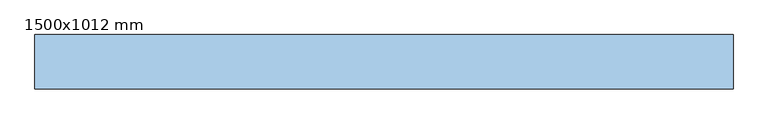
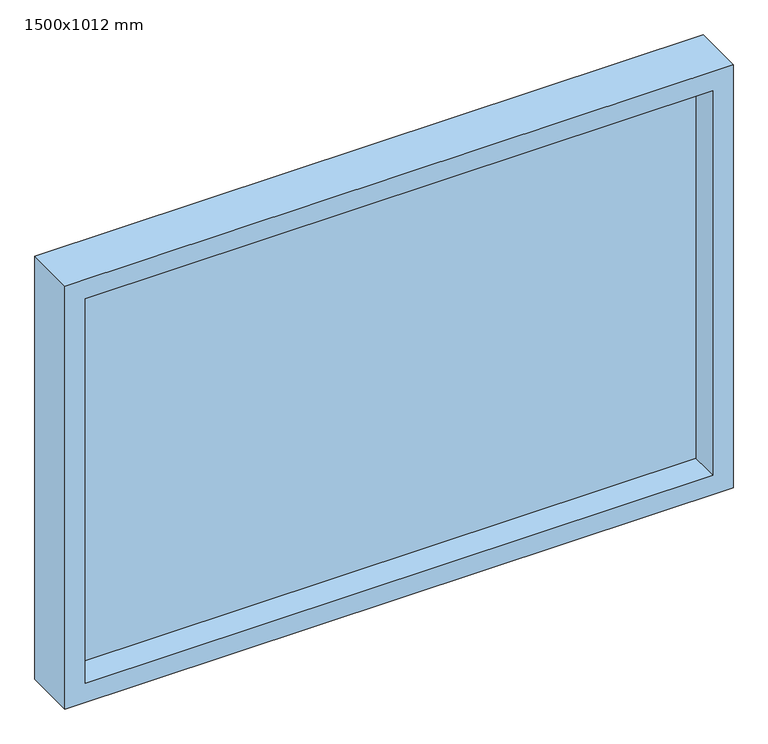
"""IFC4 building model written with IfcOpenShell, lengths in millimetres: window geometry, V_BS-Fals_Beton-Let_420mm : 1500x1012 mm."""

from ifc_helpers import new_model, si_unit, frame, origin, place, context, project, spatial, polyline, outline, extrude, source, transform, mapped, element, save


def window_1500x1012_mm_c2383a84(model_context):
    return source(origin(), model_context, "Body", "SweptSolid", [
        extrude(outline(polyline([(681.0, 93.0), (681.0, 71.0), (-705.0, 71.0), (-705.0, 93.0), (681.0, 93.0)])), frame((0.0, 0.0, 657.0), z_axis=(0.0, 0.0, 1.0), x_axis=(1.0, 0.0, 0.0)), (0.0, 0.0, 1.0), 898.0),
        extrude(outline(polyline([(612.0, -750.0), (612.0, 726.0), (1600.0, 726.0), (1600.0, -750.0), (612.0, -750.0)]), holes=[polyline([(1555.0, -705.0), (1555.0, 681.0), (657.0, 681.0), (657.0, -705.0), (1555.0, -705.0)])]), frame((0.0, 6.0, 0.0), z_axis=(0.0, 1.0, 0.0), x_axis=(0.0, 0.0, 1.0)), (0.0, 0.0, 1.0), 115.0),
    ])


if __name__ == "__main__":
    model = new_model("IFC4")
    model_context = context("Model", 3, world=origin())
    ifc_project = project(units=[si_unit("LENGTHUNIT", "METRE", prefix="MILLI")], contexts=[model_context])
    site = spatial("IfcSite", under=ifc_project)
    building = spatial("IfcBuilding", under=site)
    placement = place(None, origin())
    window_1500x1012_mm_shape = window_1500x1012_mm_c2383a84(model_context)
    element("IfcWindow", 1, ObjectType="V_BS-Fals_Beton-Let_420mm : 1500x1012 mm", at=placement, inside=building, context=model_context, shape_type="MappedRepresentation", body=[
        mapped(window_1500x1012_mm_shape, transform((0.0, 0.0, 0.0), x_axis=(1.0, 0.0, 0.0), y_axis=(0.0, 1.0, 0.0), z_axis=(0.0, 0.0, 1.0))),
    ])
    save(model, "model.ifc")
